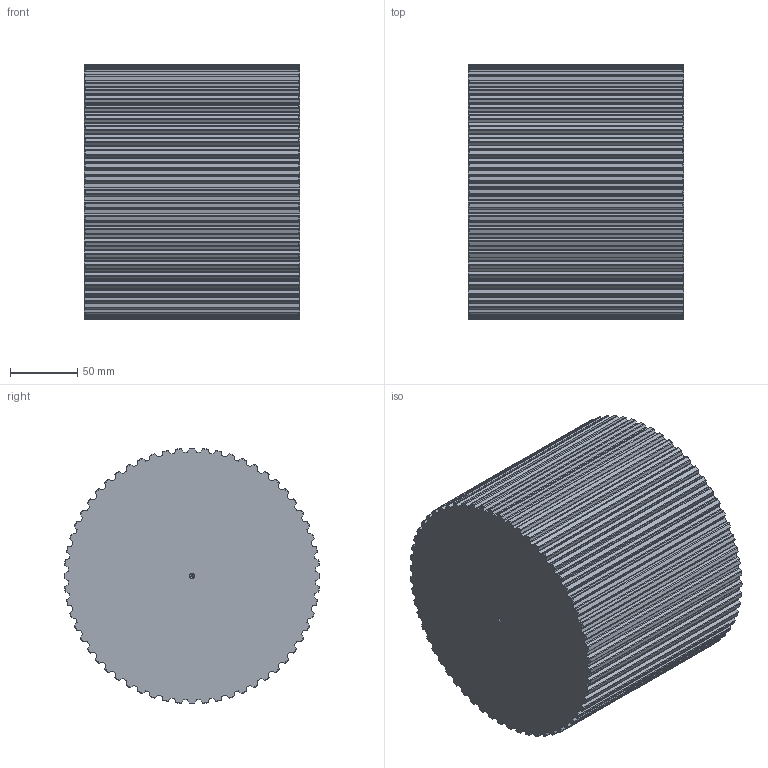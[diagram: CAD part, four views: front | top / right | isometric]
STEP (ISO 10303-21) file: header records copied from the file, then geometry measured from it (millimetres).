
FILE_DESCRIPTION(('STEP AP203'),'1');
FILE_NAME('bart_60.stp','2022-04-21T08:22:47',('TraceParts'),('TraceParts S.A.'),'Spatial InterOp 3D',' ',' ');
FILE_SCHEMA(('CONFIG_CONTROL_DESIGN'));
Length unit declared in the file: millimetre
Products named in the file (1): 1
Bounding box: 160 x 189.98 x 189.98 mm (x, y, z)
Volume: 4403208.9 mm3; surface area: 180384.3 mm2
Topology: 1 solids, 1 shells, 618 faces, 1840 edges, 1222 vertices
Faces by surface type: cylinder 364, cone 132, plane 122
Entity records: 22356 total; most frequent: CARTESIAN_POINT 6317, ORIENTED_EDGE 3672, DIRECTION 3214, EDGE_CURVE 1836, AXIS2_PLACEMENT_3D 1239, VERTEX_POINT 1222, LINE 736, VECTOR 736
